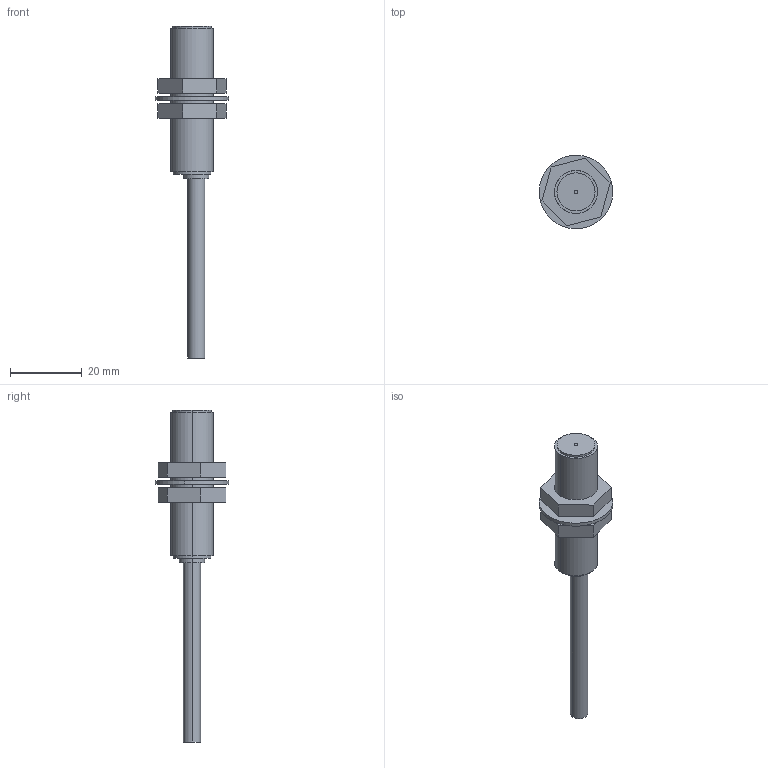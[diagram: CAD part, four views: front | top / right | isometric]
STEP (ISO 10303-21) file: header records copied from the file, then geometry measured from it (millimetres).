
FILE_DESCRIPTION (( 'STEP AP203' ), '1' );
FILE_NAME ('gx-112mk.STEP', '2017-05-18T01:06:38', ( '' ), ( '' ), 'SwSTEP 2.0', 'SolidWorks 2014', '' );
FILE_SCHEMA (( 'CONFIG_CONTROL_DESIGN' ));
Length unit declared in the file: millimetre
Products named in the file (4): gx-112mk; gx-112mk dianpian_1; gx-112mk luomu_1; gx-112mk benti_1
Assembly tree (4 placements, depth 2):
  gx-112mk
    gx-112mk benti_1
    gx-112mk dianpian_1
    gx-112mk luomu_1  x2
Bounding box: 20.5 x 20.5 x 92.6 mm (x, y, z)
Volume: 6911.1 mm3; surface area: 4420 mm2
Topology: 4 solids, 4 shells, 57 faces, 120 edges, 80 vertices
Faces by surface type: plane 29, cylinder 28
Entity records: 1716 total; most frequent: DIRECTION 256, CARTESIAN_POINT 214, ORIENTED_EDGE 192, AXIS2_PLACEMENT_3D 106, EDGE_CURVE 96, VERTEX_POINT 64, EDGE_LOOP 60, CIRCLE 52
